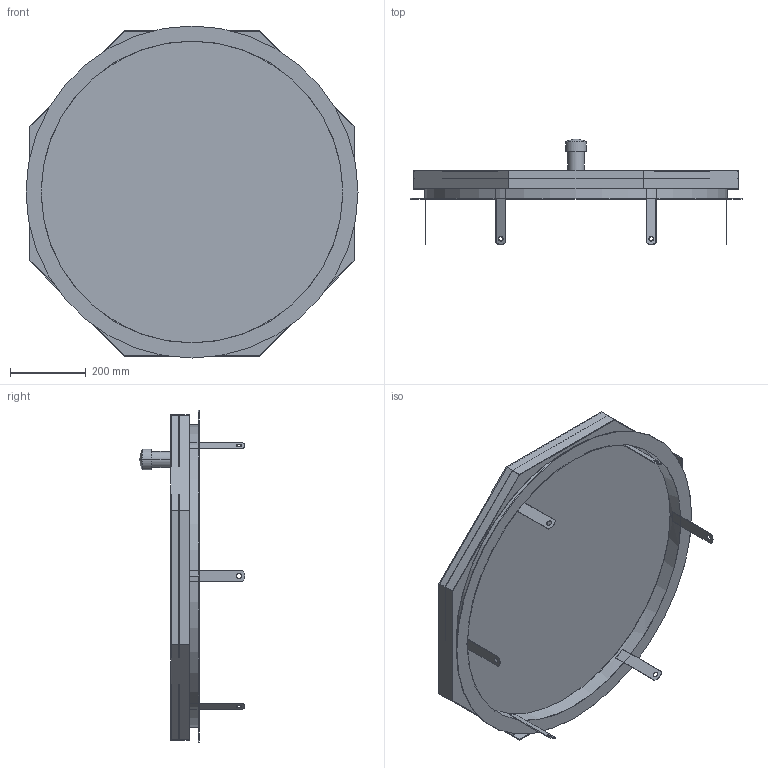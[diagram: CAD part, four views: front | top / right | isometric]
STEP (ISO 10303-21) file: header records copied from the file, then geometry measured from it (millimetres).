
FILE_DESCRIPTION((''),'2;1');
FILE_NAME('017_000107','2018-09-06T',('wj'),('HUBER SE'),'PRO/ENGINEER BY PARAMETRIC TECHNOLOGY CORPORATION, 2017170','PRO/ENGINEER BY PARAMETRIC TECHNOLOGY CORPORATION, 2017170','');
FILE_SCHEMA(('AUTOMOTIVE_DESIGN { 1 0 10303 214 1 1 1 1 }'));
Length unit declared in the file: millimetre
Products named in the file (1): 017_000107
Bounding box: 875 x 277.25 x 875 mm (x, y, z)
Volume: 2831548.7 mm3; surface area: 3166187.9 mm2
Topology: 2 solids, 3 shells, 93 faces, 250 edges, 165 vertices
Faces by surface type: plane 63, cylinder 28, sphere 2
Entity records: 3531 total; most frequent: CARTESIAN_POINT 517, DIRECTION 517, ORIENTED_EDGE 496, EDGE_CURVE 248, VECTOR 178, LINE 178, AXIS2_PLACEMENT_3D 168, VERTEX_POINT 165
